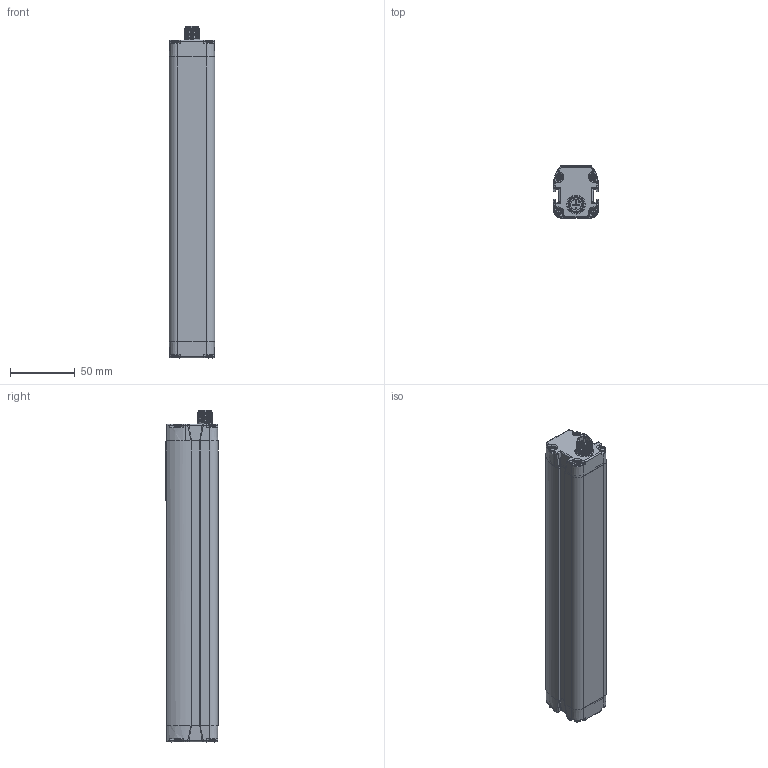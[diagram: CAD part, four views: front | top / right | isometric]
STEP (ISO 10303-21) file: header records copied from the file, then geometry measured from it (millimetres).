
FILE_DESCRIPTION(/* description */ (''),/* implementation_level */ '2;1');
FILE_NAME(/* name */ 'DSD-0974 DS2-05-07-015-JV _RX_STP.stp',/* time_stamp */ '2019-10-07T12:09:09+02:00',/* author */ (''),/* organization */ (''),/* preprocessor_version */ 'ST-DEVELOPER v16.7',/* originating_system */ 'SIEMENS PLM Software NX 12.0',/* authorisation */ '');
FILE_SCHEMA (('AUTOMOTIVE_DESIGN { 1 0 10303 214 3 1 1 1 }'));
Products named in the file (1): fgut2A3C7F9Azsyx
Bounding box: 35 x 40.1 x 256 mm (x, y, z)
Volume: 285436.6 mm3; surface area: 63345.2 mm2
Topology: 1 solids, 3 shells, 1273 faces, 3241 edges, 1960 vertices
Faces by surface type: plane 470, cylinder 447, bspline 168, cone 108, sphere 56, torus 24
Full cylindrical faces by diameter (mm): 1 x4, 2 x2, 2.4 x4, 2.6 x8, 3 x1, 3.7 x8, 3.8 x4, 4.2 x1, 5 x8, 6 x1, 6.8 x1, 8.3 x1, 10.4 x1, 10.55 x1, 12 x11, 14 x1, 14.5 x1
Entity records: 49594 total; most frequent: CARTESIAN_POINT 14140, ORIENTED_EDGE 6196, DIRECTION 5431, EDGE_CURVE 3098, AXIS2_PLACEMENT_3D 2116, VERTEX_POINT 1945, EDGE_LOOP 1385, ADVANCED_FACE 1265
